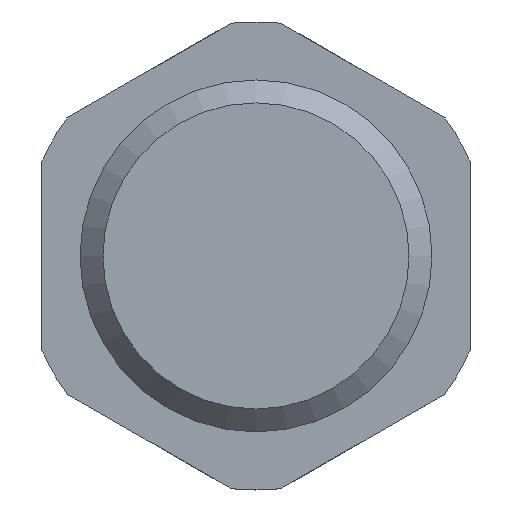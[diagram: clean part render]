
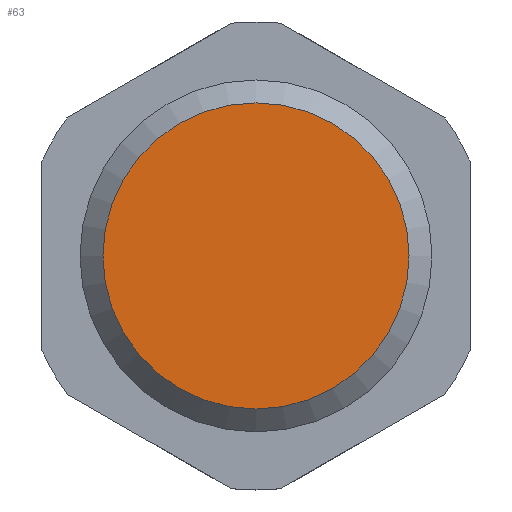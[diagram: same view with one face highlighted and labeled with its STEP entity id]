
A CAD part, front view. The second image highlights one B-rep face of the part: STEP entity #63.
In plain terms, the highlighted planar face has unit normal (0, -1, 0).
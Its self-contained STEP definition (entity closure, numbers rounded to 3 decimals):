
#63 = ADVANCED_FACE( '', ( #138 ), #139, .F. );
#138 = FACE_OUTER_BOUND( '', #258, .T. );
#139 = PLANE( '', #259 );
#258 = EDGE_LOOP( '', ( #374 ) );
#259 = AXIS2_PLACEMENT_3D( '', #375, #376, #377 );
#374 = ORIENTED_EDGE( '', *, *, #527, .T. );
#375 = CARTESIAN_POINT( '', ( 5.723, 0., 0. ) );
#376 = DIRECTION( '', ( 0., 1., 0. ) );
#377 = DIRECTION( '', ( 0., 0., 1. ) );
#527 = EDGE_CURVE( '', #619, #619, #620, .T. );
#619 = VERTEX_POINT( '', #779 );
#620 = CIRCLE( '', #780, 5.723 );
#779 = CARTESIAN_POINT( '', ( 0., 0., -5.723 ) );
#780 = AXIS2_PLACEMENT_3D( '', #876, #877, #878 );
#876 = CARTESIAN_POINT( '', ( 0., 0., 0. ) );
#877 = DIRECTION( '', ( 0., -1., 0. ) );
#878 = DIRECTION( '', ( 0., 0., -1. ) );
